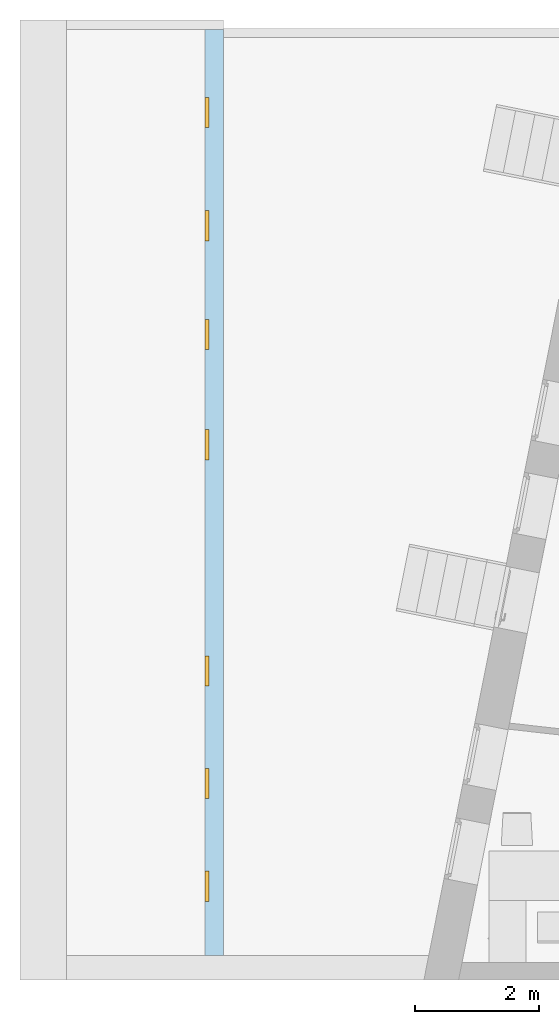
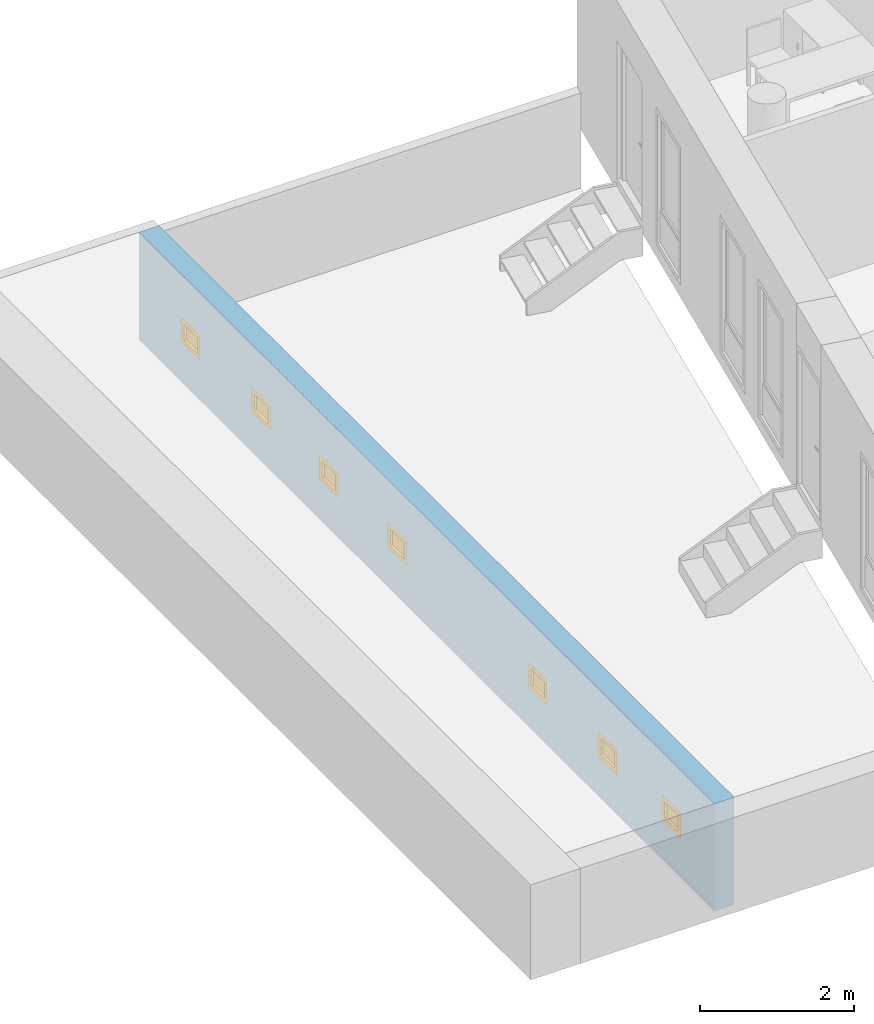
"""IFC4 building model written with IfcOpenShell, lengths in metres."""

from ifc_helpers import new_model, entity, si_unit, converted_unit, derived_unit, frame, frame_2d, origin, origin_with_axes, place, context, subcontext, project, spatial, polyline, rectangle, outline, extrude, closed_shell, open_shell, surface_model, source, transform, mapped, material, layer, layer_set, layer_usage, element, fill, save


model = new_model("IFC4")

# Units and contexts
model_context = context("Model", 3, precision=1e-05, world=origin())
body_context = subcontext(model_context, "Body", "Model", "MODEL_VIEW")
ifc_project = project(units=[si_unit("LENGTHUNIT", "METRE"), si_unit("AREAUNIT", "SQUARE_METRE"), si_unit("VOLUMEUNIT", "CUBIC_METRE"), si_unit("MASSUNIT", "GRAM", prefix="KILO"), converted_unit("PLANEANGLEUNIT", "DEGREE", entity("IfcPlaneAngleMeasure", 0.0174532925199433), si_unit("PLANEANGLEUNIT", "RADIAN"), dimensions=[0, 0, 0, 0, 0, 0, 0]), derived_unit("THERMALTRANSMITTANCEUNIT", [(si_unit("POWERUNIT", "WATT"), 1), (si_unit("THERMODYNAMICTEMPERATUREUNIT", "KELVIN"), -1), (si_unit("LENGTHUNIT", "METRE"), -2)]), derived_unit("VOLUMETRICFLOWRATEUNIT", [(si_unit("LENGTHUNIT", "METRE"), 3), (converted_unit("TIMEUNIT", "hour", entity("IfcTimeMeasure", 3600.0), si_unit("TIMEUNIT", "SECOND"), dimensions=[0, 0, 1, 0, 0, 0, 0]), -1), (si_unit("LENGTHUNIT", "METRE"), -1)])], contexts=[model_context])

# Building, storeys
building_placement = place(None, origin())
building = spatial("IfcBuilding", under=ifc_project, at=building_placement, Name="HABITATGE PLURIFAMILIAR", CompositionType="ELEMENT")
storey_1_placement = place(building_placement, frame((0.0, 0.0, 6.25)))
storey_1 = spatial("IfcBuildingStorey", under=building, at=storey_1_placement, Name="PLANTA PRIMERA", CompositionType="ELEMENT", Elevation=6.25)
storey_2_placement = place(storey_1_placement, frame((0.0, 0.0, 3.35)))
storey_2 = spatial("IfcBuildingStorey", under=storey_1, at=storey_2_placement, Name="NOU", CompositionType="PARTIAL")

# Wall, openings, windows
ifc_material = material()
ifc_layer = layer(ifc_material, 0.3)
ifc_layer_set = layer_set([ifc_layer])
ifc_layer_usage = layer_usage(ifc_layer_set, "AXIS2", "POSITIVE", 0.0)
wall_placement = place(storey_2_placement, frame((394.139778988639, 28.2138565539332, -4.58), z_axis=(0.0, 0.0, 1.0), x_axis=(0.0, -1.0, 0.0)))
wall = element("IfcWall", 1, at=wall_placement, inside=storey_2, material=ifc_layer_usage, Name="Envans P1", context=body_context, shape_type="SweptSolid", body=[
    extrude(rectangle(XDim=14.9732444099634, YDim=0.3, at=frame_2d((7.48662220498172, 0.15), x_axis=(1.0, 0.0))), origin_with_axes(), (0.0, 0.0, 1.0), 1.71),
])
opening_1_placement = place(wall_placement, frame((4.69138736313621, 0.0, 0.63), z_axis=(0.0, 1.0, 0.0), x_axis=(0.0, 0.0, 1.0)))
opening_1 = element("IfcOpeningElement", 2, at=opening_1_placement, cuts=wall, Name="Vano de Finestra P1", ObjectType="Opening", context=body_context, shape_type="SweptSolid", body=[
    extrude(outline(polyline([(0.4, 0.49), (0.4, 0.0), (0.0, 0.0), (0.0, 0.49), (0.4, 0.49)])), origin_with_axes(), (0.0, 0.0, 1.0), 0.3),
])
opening_2_placement = place(wall_placement, frame((2.93138736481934, 0.0, 0.63), z_axis=(0.0, 1.0, 0.0), x_axis=(0.0, 0.0, 1.0)))
opening_2 = element("IfcOpeningElement", 3, at=opening_2_placement, cuts=wall, Name="Vano de Finestra P1", ObjectType="Opening", context=body_context, shape_type="SweptSolid", body=[
    extrude(outline(polyline([(0.4, 0.49), (0.4, 0.0), (0.0, 0.0), (0.0, 0.49), (0.4, 0.49)])), origin_with_axes(), (0.0, 0.0, 1.0), 0.3),
])
opening_3_placement = place(wall_placement, frame((6.47138736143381, 0.0, 0.63), z_axis=(0.0, 1.0, 0.0), x_axis=(0.0, 0.0, 1.0)))
opening_3 = element("IfcOpeningElement", 4, at=opening_3_placement, cuts=wall, Name="Vano de Finestra P1", ObjectType="Opening", context=body_context, shape_type="SweptSolid", body=[
    extrude(outline(polyline([(0.4, 0.49), (0.4, 0.0), (0.0, 0.0), (0.0, 0.49), (0.4, 0.49)])), origin_with_axes(), (0.0, 0.0, 1.0), 0.3),
])
opening_4_placement = place(wall_placement, frame((1.10138736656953, 0.0, 0.63), z_axis=(0.0, 1.0, 0.0), x_axis=(0.0, 0.0, 1.0)))
opening_4 = element("IfcOpeningElement", 5, at=opening_4_placement, cuts=wall, Name="Vano de Finestra P1", ObjectType="Opening", context=body_context, shape_type="SweptSolid", body=[
    extrude(outline(polyline([(0.4, 0.49), (0.4, 0.0), (0.0, 0.0), (0.0, 0.49), (0.4, 0.49)])), origin_with_axes(), (0.0, 0.0, 1.0), 0.3),
])
opening_5_placement = place(wall_placement, frame((10.1313873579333, 0.0, 0.63), z_axis=(0.0, 1.0, 0.0), x_axis=(0.0, 0.0, 1.0)))
opening_5 = element("IfcOpeningElement", 6, at=opening_5_placement, cuts=wall, Name="Vano de Finestra P1", ObjectType="Opening", context=body_context, shape_type="SweptSolid", body=[
    extrude(outline(polyline([(0.4, 0.49), (0.4, 0.0), (0.0, 0.0), (0.0, 0.49), (0.4, 0.49)])), origin_with_axes(), (0.0, 0.0, 1.0), 0.3),
])
opening_6_placement = place(wall_placement, frame((11.9520491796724, 0.0, 0.63), z_axis=(0.0, 1.0, 0.0), x_axis=(0.0, 0.0, 1.0)))
opening_6 = element("IfcOpeningElement", 7, at=opening_6_placement, cuts=wall, Name="Vano de Finestra P1", ObjectType="Opening", context=body_context, shape_type="SweptSolid", body=[
    extrude(outline(polyline([(0.4, 0.49), (0.4, 0.0), (0.0, 0.0), (0.0, 0.49), (0.4, 0.49)])), origin_with_axes(), (0.0, 0.0, 1.0), 0.3),
])
opening_7_placement = place(wall_placement, frame((13.6120491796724, 0.0, 0.63), z_axis=(0.0, 1.0, 0.0), x_axis=(0.0, 0.0, 1.0)))
opening_7 = element("IfcOpeningElement", 8, at=opening_7_placement, cuts=wall, Name="Vano de Finestra P1", ObjectType="Opening", context=body_context, shape_type="SweptSolid", body=[
    extrude(outline(polyline([(0.4, 0.49), (0.4, 0.0), (0.0, 0.0), (0.0, 0.49), (0.4, 0.49)])), origin_with_axes(), (0.0, 0.0, 1.0), 0.3),
])
shared_shape_1 = source(origin_with_axes(), body_context, "Body", "SurfaceModel", [
    surface_model("IfcShellBasedSurfaceModel", [(0.0, 0.0, 0.4), (0.0699999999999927, 0.0, 0.4), (0.0699999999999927, 0.0, 0.0), (0.0, 0.0, 0.0), (0.0, 0.0700000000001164, 0.0), (0.0699999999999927, 0.0700000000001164, 0.0), (0.0699999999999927, 0.0700000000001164, 0.4), (0.0, 0.0700000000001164, 0.4)], [closed_shell([[[0, 1, 2, 3]], [[4, 5, 6, 7]], [[3, 4, 7, 0]], [[2, 5, 4, 3]], [[1, 6, 5, 2]], [[0, 7, 6, 1]]], orient=[[False], [False], [False], [False], [False], [False]])]),
    surface_model("IfcShellBasedSurfaceModel", [(0.419999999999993, 0.0, 0.4), (0.489999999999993, 0.0, 0.4), (0.489999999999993, 0.0, 0.0), (0.419999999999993, 0.0, 0.0), (0.419999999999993, 0.0700000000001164, 0.0), (0.489999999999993, 0.0700000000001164, 0.0), (0.489999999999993, 0.0700000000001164, 0.4), (0.419999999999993, 0.0700000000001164, 0.4)], [closed_shell([[[0, 1, 2, 3]], [[4, 5, 6, 7]], [[3, 4, 7, 0]], [[2, 5, 4, 3]], [[1, 6, 5, 2]], [[0, 7, 6, 1]]], orient=[[False], [False], [False], [False], [False], [False]])]),
    surface_model("IfcShellBasedSurfaceModel", [(0.0699999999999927, 0.0, 0.07), (0.419999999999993, 0.0, 0.07), (0.419999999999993, 0.0, 0.0), (0.0699999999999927, 0.0, 0.0), (0.0699999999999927, 0.0700000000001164, 0.0), (0.419999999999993, 0.0700000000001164, 0.0), (0.419999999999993, 0.0700000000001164, 0.07), (0.0699999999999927, 0.0700000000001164, 0.07)], [closed_shell([[[0, 1, 2, 3]], [[4, 5, 6, 7]], [[3, 4, 7, 0]], [[2, 5, 4, 3]], [[1, 6, 5, 2]], [[0, 7, 6, 1]]], orient=[[False], [False], [False], [False], [False], [False]])]),
    surface_model("IfcShellBasedSurfaceModel", [(0.0699999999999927, 0.0, 0.4), (0.419999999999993, 0.0, 0.4), (0.419999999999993, 0.0, 0.33), (0.0699999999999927, 0.0, 0.33), (0.0699999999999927, 0.0700000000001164, 0.33), (0.419999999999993, 0.0700000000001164, 0.33), (0.419999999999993, 0.0700000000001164, 0.4), (0.0699999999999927, 0.0700000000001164, 0.4)], [closed_shell([[[0, 1, 2, 3]], [[4, 5, 6, 7]], [[3, 4, 7, 0]], [[2, 5, 4, 3]], [[1, 6, 5, 2]], [[0, 7, 6, 1]]], orient=[[False], [False], [False], [False], [False], [False]])]),
    surface_model("IfcShellBasedSurfaceModel", [(0.0699999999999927, 0.0350000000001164, 0.07), (0.0699999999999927, 0.0350000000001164, 0.33), (0.419999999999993, 0.0350000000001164, 0.33), (0.419999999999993, 0.0350000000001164, 0.07)], [open_shell([[[0, 1, 2, 3]]], orient=[[False]])]),
])
window_1_placement = place(opening_1_placement, frame((0.0, 0.49, 0.07), z_axis=(1.0, 0.0, 0.0), x_axis=(0.0, -1.0, 0.0)))
window_1 = element("IfcWindow", 9, at=window_1_placement, inside=storey_2, Name="Ventana", OverallHeight=0.4, OverallWidth=0.49, PartitioningType="USERDEFINED", PredefinedType="WINDOW", context=body_context, shape_type="MappedRepresentation", body=[
    mapped(shared_shape_1, transform((0.0, 0.0, 0.0), x_axis=(1.0, 0.0, 0.0), y_axis=(0.0, 1.0, 0.0), z_axis=(0.0, 0.0, 1.0), scale=1.0)),
])
fill(opening_1, window_1)
shared_shape_2 = source(origin_with_axes(), body_context, "Body", "SurfaceModel", [
    surface_model("IfcShellBasedSurfaceModel", [(0.0, 0.0, 0.4), (0.0699999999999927, 0.0, 0.4), (0.0699999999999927, 0.0, 0.0), (0.0, 0.0, 0.0), (0.0, 0.0700000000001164, 0.0), (0.0699999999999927, 0.0700000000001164, 0.0), (0.0699999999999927, 0.0700000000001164, 0.4), (0.0, 0.0700000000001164, 0.4)], [closed_shell([[[0, 1, 2, 3]], [[4, 5, 6, 7]], [[3, 4, 7, 0]], [[2, 5, 4, 3]], [[1, 6, 5, 2]], [[0, 7, 6, 1]]], orient=[[False], [False], [False], [False], [False], [False]])]),
    surface_model("IfcShellBasedSurfaceModel", [(0.419999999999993, 0.0, 0.4), (0.489999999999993, 0.0, 0.4), (0.489999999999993, 0.0, 0.0), (0.419999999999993, 0.0, 0.0), (0.419999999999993, 0.0700000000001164, 0.0), (0.489999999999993, 0.0700000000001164, 0.0), (0.489999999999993, 0.0700000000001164, 0.4), (0.419999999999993, 0.0700000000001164, 0.4)], [closed_shell([[[0, 1, 2, 3]], [[4, 5, 6, 7]], [[3, 4, 7, 0]], [[2, 5, 4, 3]], [[1, 6, 5, 2]], [[0, 7, 6, 1]]], orient=[[False], [False], [False], [False], [False], [False]])]),
    surface_model("IfcShellBasedSurfaceModel", [(0.0699999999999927, 0.0, 0.07), (0.419999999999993, 0.0, 0.07), (0.419999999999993, 0.0, 0.0), (0.0699999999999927, 0.0, 0.0), (0.0699999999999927, 0.0700000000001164, 0.0), (0.419999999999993, 0.0700000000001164, 0.0), (0.419999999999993, 0.0700000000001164, 0.07), (0.0699999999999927, 0.0700000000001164, 0.07)], [closed_shell([[[0, 1, 2, 3]], [[4, 5, 6, 7]], [[3, 4, 7, 0]], [[2, 5, 4, 3]], [[1, 6, 5, 2]], [[0, 7, 6, 1]]], orient=[[False], [False], [False], [False], [False], [False]])]),
    surface_model("IfcShellBasedSurfaceModel", [(0.0699999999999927, 0.0, 0.4), (0.419999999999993, 0.0, 0.4), (0.419999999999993, 0.0, 0.33), (0.0699999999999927, 0.0, 0.33), (0.0699999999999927, 0.0700000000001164, 0.33), (0.419999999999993, 0.0700000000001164, 0.33), (0.419999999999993, 0.0700000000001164, 0.4), (0.0699999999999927, 0.0700000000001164, 0.4)], [closed_shell([[[0, 1, 2, 3]], [[4, 5, 6, 7]], [[3, 4, 7, 0]], [[2, 5, 4, 3]], [[1, 6, 5, 2]], [[0, 7, 6, 1]]], orient=[[False], [False], [False], [False], [False], [False]])]),
    surface_model("IfcShellBasedSurfaceModel", [(0.0699999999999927, 0.0350000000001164, 0.07), (0.0699999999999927, 0.0350000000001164, 0.33), (0.419999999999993, 0.0350000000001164, 0.33), (0.419999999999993, 0.0350000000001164, 0.07)], [open_shell([[[0, 1, 2, 3]]], orient=[[False]])]),
])
window_2_placement = place(opening_2_placement, frame((0.0, 0.49, 0.07), z_axis=(1.0, 0.0, 0.0), x_axis=(0.0, -1.0, 0.0)))
window_2 = element("IfcWindow", 10, at=window_2_placement, inside=storey_2, Name="Ventana", OverallHeight=0.4, OverallWidth=0.49, PartitioningType="USERDEFINED", PredefinedType="WINDOW", context=body_context, shape_type="MappedRepresentation", body=[
    mapped(shared_shape_2, transform((0.0, 0.0, 0.0), x_axis=(1.0, 0.0, 0.0), y_axis=(0.0, 1.0, 0.0), z_axis=(0.0, 0.0, 1.0), scale=1.0)),
])
fill(opening_2, window_2)
shared_shape_3 = source(origin_with_axes(), body_context, "Body", "SurfaceModel", [
    surface_model("IfcShellBasedSurfaceModel", [(0.0, 0.0, 0.4), (0.0699999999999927, 0.0, 0.4), (0.0699999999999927, 0.0, 0.0), (0.0, 0.0, 0.0), (0.0, 0.0700000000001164, 0.0), (0.0699999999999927, 0.0700000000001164, 0.0), (0.0699999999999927, 0.0700000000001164, 0.4), (0.0, 0.0700000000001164, 0.4)], [closed_shell([[[0, 1, 2, 3]], [[4, 5, 6, 7]], [[3, 4, 7, 0]], [[2, 5, 4, 3]], [[1, 6, 5, 2]], [[0, 7, 6, 1]]], orient=[[False], [False], [False], [False], [False], [False]])]),
    surface_model("IfcShellBasedSurfaceModel", [(0.419999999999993, 0.0, 0.4), (0.489999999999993, 0.0, 0.4), (0.489999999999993, 0.0, 0.0), (0.419999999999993, 0.0, 0.0), (0.419999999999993, 0.0700000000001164, 0.0), (0.489999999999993, 0.0700000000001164, 0.0), (0.489999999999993, 0.0700000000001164, 0.4), (0.419999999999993, 0.0700000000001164, 0.4)], [closed_shell([[[0, 1, 2, 3]], [[4, 5, 6, 7]], [[3, 4, 7, 0]], [[2, 5, 4, 3]], [[1, 6, 5, 2]], [[0, 7, 6, 1]]], orient=[[False], [False], [False], [False], [False], [False]])]),
    surface_model("IfcShellBasedSurfaceModel", [(0.0699999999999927, 0.0, 0.07), (0.419999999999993, 0.0, 0.07), (0.419999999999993, 0.0, 0.0), (0.0699999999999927, 0.0, 0.0), (0.0699999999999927, 0.0700000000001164, 0.0), (0.419999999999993, 0.0700000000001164, 0.0), (0.419999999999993, 0.0700000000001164, 0.07), (0.0699999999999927, 0.0700000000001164, 0.07)], [closed_shell([[[0, 1, 2, 3]], [[4, 5, 6, 7]], [[3, 4, 7, 0]], [[2, 5, 4, 3]], [[1, 6, 5, 2]], [[0, 7, 6, 1]]], orient=[[False], [False], [False], [False], [False], [False]])]),
    surface_model("IfcShellBasedSurfaceModel", [(0.0699999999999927, 0.0, 0.4), (0.419999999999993, 0.0, 0.4), (0.419999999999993, 0.0, 0.33), (0.0699999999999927, 0.0, 0.33), (0.0699999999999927, 0.0700000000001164, 0.33), (0.419999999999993, 0.0700000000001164, 0.33), (0.419999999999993, 0.0700000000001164, 0.4), (0.0699999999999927, 0.0700000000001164, 0.4)], [closed_shell([[[0, 1, 2, 3]], [[4, 5, 6, 7]], [[3, 4, 7, 0]], [[2, 5, 4, 3]], [[1, 6, 5, 2]], [[0, 7, 6, 1]]], orient=[[False], [False], [False], [False], [False], [False]])]),
    surface_model("IfcShellBasedSurfaceModel", [(0.0699999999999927, 0.0350000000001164, 0.07), (0.0699999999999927, 0.0350000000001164, 0.33), (0.419999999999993, 0.0350000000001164, 0.33), (0.419999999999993, 0.0350000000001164, 0.07)], [open_shell([[[0, 1, 2, 3]]], orient=[[False]])]),
])
window_3_placement = place(opening_3_placement, frame((0.0, 0.49, 0.07), z_axis=(1.0, 0.0, 0.0), x_axis=(0.0, -1.0, 0.0)))
window_3 = element("IfcWindow", 11, at=window_3_placement, inside=storey_2, Name="Ventana", OverallHeight=0.4, OverallWidth=0.49, PartitioningType="USERDEFINED", PredefinedType="WINDOW", context=body_context, shape_type="MappedRepresentation", body=[
    mapped(shared_shape_3, transform((0.0, 0.0, 0.0), x_axis=(1.0, 0.0, 0.0), y_axis=(0.0, 1.0, 0.0), z_axis=(0.0, 0.0, 1.0), scale=1.0)),
])
fill(opening_3, window_3)
shared_shape_4 = source(origin_with_axes(), body_context, "Body", "SurfaceModel", [
    surface_model("IfcShellBasedSurfaceModel", [(0.0, 0.0, 0.4), (0.0699999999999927, 0.0, 0.4), (0.0699999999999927, 0.0, 0.0), (0.0, 0.0, 0.0), (0.0, 0.0700000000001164, 0.0), (0.0699999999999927, 0.0700000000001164, 0.0), (0.0699999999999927, 0.0700000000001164, 0.4), (0.0, 0.0700000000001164, 0.4)], [closed_shell([[[0, 1, 2, 3]], [[4, 5, 6, 7]], [[3, 4, 7, 0]], [[2, 5, 4, 3]], [[1, 6, 5, 2]], [[0, 7, 6, 1]]], orient=[[False], [False], [False], [False], [False], [False]])]),
    surface_model("IfcShellBasedSurfaceModel", [(0.419999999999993, 0.0, 0.4), (0.489999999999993, 0.0, 0.4), (0.489999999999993, 0.0, 0.0), (0.419999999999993, 0.0, 0.0), (0.419999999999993, 0.0700000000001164, 0.0), (0.489999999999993, 0.0700000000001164, 0.0), (0.489999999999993, 0.0700000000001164, 0.4), (0.419999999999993, 0.0700000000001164, 0.4)], [closed_shell([[[0, 1, 2, 3]], [[4, 5, 6, 7]], [[3, 4, 7, 0]], [[2, 5, 4, 3]], [[1, 6, 5, 2]], [[0, 7, 6, 1]]], orient=[[False], [False], [False], [False], [False], [False]])]),
    surface_model("IfcShellBasedSurfaceModel", [(0.0699999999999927, 0.0, 0.07), (0.419999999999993, 0.0, 0.07), (0.419999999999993, 0.0, 0.0), (0.0699999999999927, 0.0, 0.0), (0.0699999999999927, 0.0700000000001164, 0.0), (0.419999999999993, 0.0700000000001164, 0.0), (0.419999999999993, 0.0700000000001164, 0.07), (0.0699999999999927, 0.0700000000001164, 0.07)], [closed_shell([[[0, 1, 2, 3]], [[4, 5, 6, 7]], [[3, 4, 7, 0]], [[2, 5, 4, 3]], [[1, 6, 5, 2]], [[0, 7, 6, 1]]], orient=[[False], [False], [False], [False], [False], [False]])]),
    surface_model("IfcShellBasedSurfaceModel", [(0.0699999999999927, 0.0, 0.4), (0.419999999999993, 0.0, 0.4), (0.419999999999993, 0.0, 0.33), (0.0699999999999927, 0.0, 0.33), (0.0699999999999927, 0.0700000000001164, 0.33), (0.419999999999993, 0.0700000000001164, 0.33), (0.419999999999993, 0.0700000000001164, 0.4), (0.0699999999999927, 0.0700000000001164, 0.4)], [closed_shell([[[0, 1, 2, 3]], [[4, 5, 6, 7]], [[3, 4, 7, 0]], [[2, 5, 4, 3]], [[1, 6, 5, 2]], [[0, 7, 6, 1]]], orient=[[False], [False], [False], [False], [False], [False]])]),
    surface_model("IfcShellBasedSurfaceModel", [(0.0699999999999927, 0.0350000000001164, 0.07), (0.0699999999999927, 0.0350000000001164, 0.33), (0.419999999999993, 0.0350000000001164, 0.33), (0.419999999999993, 0.0350000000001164, 0.07)], [open_shell([[[0, 1, 2, 3]]], orient=[[False]])]),
])
window_4_placement = place(opening_4_placement, frame((0.0, 0.49, 0.07), z_axis=(1.0, 0.0, 0.0), x_axis=(0.0, -1.0, 0.0)))
window_4 = element("IfcWindow", 12, at=window_4_placement, inside=storey_2, Name="Ventana", OverallHeight=0.4, OverallWidth=0.49, PartitioningType="USERDEFINED", PredefinedType="WINDOW", context=body_context, shape_type="MappedRepresentation", body=[
    mapped(shared_shape_4, transform((0.0, 0.0, 0.0), x_axis=(1.0, 0.0, 0.0), y_axis=(0.0, 1.0, 0.0), z_axis=(0.0, 0.0, 1.0), scale=1.0)),
])
fill(opening_4, window_4)
shared_shape_5 = source(origin_with_axes(), body_context, "Body", "SurfaceModel", [
    surface_model("IfcShellBasedSurfaceModel", [(0.0, 0.0, 0.4), (0.0699999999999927, 0.0, 0.4), (0.0699999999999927, 0.0, 0.0), (0.0, 0.0, 0.0), (0.0, 0.0700000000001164, 0.0), (0.0699999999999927, 0.0700000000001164, 0.0), (0.0699999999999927, 0.0700000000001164, 0.4), (0.0, 0.0700000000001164, 0.4)], [closed_shell([[[0, 1, 2, 3]], [[4, 5, 6, 7]], [[3, 4, 7, 0]], [[2, 5, 4, 3]], [[1, 6, 5, 2]], [[0, 7, 6, 1]]], orient=[[False], [False], [False], [False], [False], [False]])]),
    surface_model("IfcShellBasedSurfaceModel", [(0.419999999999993, 0.0, 0.4), (0.489999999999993, 0.0, 0.4), (0.489999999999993, 0.0, 0.0), (0.419999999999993, 0.0, 0.0), (0.419999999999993, 0.0700000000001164, 0.0), (0.489999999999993, 0.0700000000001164, 0.0), (0.489999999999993, 0.0700000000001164, 0.4), (0.419999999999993, 0.0700000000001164, 0.4)], [closed_shell([[[0, 1, 2, 3]], [[4, 5, 6, 7]], [[3, 4, 7, 0]], [[2, 5, 4, 3]], [[1, 6, 5, 2]], [[0, 7, 6, 1]]], orient=[[False], [False], [False], [False], [False], [False]])]),
    surface_model("IfcShellBasedSurfaceModel", [(0.0699999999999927, 0.0, 0.07), (0.419999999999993, 0.0, 0.07), (0.419999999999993, 0.0, 0.0), (0.0699999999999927, 0.0, 0.0), (0.0699999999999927, 0.0700000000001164, 0.0), (0.419999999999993, 0.0700000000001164, 0.0), (0.419999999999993, 0.0700000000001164, 0.07), (0.0699999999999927, 0.0700000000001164, 0.07)], [closed_shell([[[0, 1, 2, 3]], [[4, 5, 6, 7]], [[3, 4, 7, 0]], [[2, 5, 4, 3]], [[1, 6, 5, 2]], [[0, 7, 6, 1]]], orient=[[False], [False], [False], [False], [False], [False]])]),
    surface_model("IfcShellBasedSurfaceModel", [(0.0699999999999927, 0.0, 0.4), (0.419999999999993, 0.0, 0.4), (0.419999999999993, 0.0, 0.33), (0.0699999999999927, 0.0, 0.33), (0.0699999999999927, 0.0700000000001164, 0.33), (0.419999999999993, 0.0700000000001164, 0.33), (0.419999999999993, 0.0700000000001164, 0.4), (0.0699999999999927, 0.0700000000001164, 0.4)], [closed_shell([[[0, 1, 2, 3]], [[4, 5, 6, 7]], [[3, 4, 7, 0]], [[2, 5, 4, 3]], [[1, 6, 5, 2]], [[0, 7, 6, 1]]], orient=[[False], [False], [False], [False], [False], [False]])]),
    surface_model("IfcShellBasedSurfaceModel", [(0.0699999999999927, 0.0350000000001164, 0.07), (0.0699999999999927, 0.0350000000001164, 0.33), (0.419999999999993, 0.0350000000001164, 0.33), (0.419999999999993, 0.0350000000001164, 0.07)], [open_shell([[[0, 1, 2, 3]]], orient=[[False]])]),
])
window_5_placement = place(opening_5_placement, frame((0.0, 0.49, 0.07), z_axis=(1.0, 0.0, 0.0), x_axis=(0.0, -1.0, 0.0)))
window_5 = element("IfcWindow", 13, at=window_5_placement, inside=storey_2, Name="Ventana", OverallHeight=0.4, OverallWidth=0.49, PartitioningType="USERDEFINED", PredefinedType="WINDOW", context=body_context, shape_type="MappedRepresentation", body=[
    mapped(shared_shape_5, transform((0.0, 0.0, 0.0), x_axis=(1.0, 0.0, 0.0), y_axis=(0.0, 1.0, 0.0), z_axis=(0.0, 0.0, 1.0), scale=1.0)),
])
fill(opening_5, window_5)
shared_shape_6 = source(origin_with_axes(), body_context, "Body", "SurfaceModel", [
    surface_model("IfcShellBasedSurfaceModel", [(0.0, 0.0, 0.4), (0.0699999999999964, 0.0, 0.4), (0.0699999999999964, 0.0, 0.0), (0.0, 0.0, 0.0), (0.0, 0.0700000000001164, 0.0), (0.0699999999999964, 0.0700000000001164, 0.0), (0.0699999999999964, 0.0700000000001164, 0.4), (0.0, 0.0700000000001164, 0.4)], [closed_shell([[[0, 1, 2, 3]], [[4, 5, 6, 7]], [[3, 4, 7, 0]], [[2, 5, 4, 3]], [[1, 6, 5, 2]], [[0, 7, 6, 1]]], orient=[[False], [False], [False], [False], [False], [False]])]),
    surface_model("IfcShellBasedSurfaceModel", [(0.419999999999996, 0.0, 0.4), (0.489999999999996, 0.0, 0.4), (0.489999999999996, 0.0, 0.0), (0.419999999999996, 0.0, 0.0), (0.419999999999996, 0.0700000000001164, 0.0), (0.489999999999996, 0.0700000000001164, 0.0), (0.489999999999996, 0.0700000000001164, 0.4), (0.419999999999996, 0.0700000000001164, 0.4)], [closed_shell([[[0, 1, 2, 3]], [[4, 5, 6, 7]], [[3, 4, 7, 0]], [[2, 5, 4, 3]], [[1, 6, 5, 2]], [[0, 7, 6, 1]]], orient=[[False], [False], [False], [False], [False], [False]])]),
    surface_model("IfcShellBasedSurfaceModel", [(0.0699999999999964, 0.0, 0.07), (0.419999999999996, 0.0, 0.07), (0.419999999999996, 0.0, 0.0), (0.0699999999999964, 0.0, 0.0), (0.0699999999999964, 0.0700000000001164, 0.0), (0.419999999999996, 0.0700000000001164, 0.0), (0.419999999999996, 0.0700000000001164, 0.07), (0.0699999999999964, 0.0700000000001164, 0.07)], [closed_shell([[[0, 1, 2, 3]], [[4, 5, 6, 7]], [[3, 4, 7, 0]], [[2, 5, 4, 3]], [[1, 6, 5, 2]], [[0, 7, 6, 1]]], orient=[[False], [False], [False], [False], [False], [False]])]),
    surface_model("IfcShellBasedSurfaceModel", [(0.0699999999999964, 0.0, 0.4), (0.419999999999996, 0.0, 0.4), (0.419999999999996, 0.0, 0.33), (0.0699999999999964, 0.0, 0.33), (0.0699999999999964, 0.0700000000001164, 0.33), (0.419999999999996, 0.0700000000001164, 0.33), (0.419999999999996, 0.0700000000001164, 0.4), (0.0699999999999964, 0.0700000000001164, 0.4)], [closed_shell([[[0, 1, 2, 3]], [[4, 5, 6, 7]], [[3, 4, 7, 0]], [[2, 5, 4, 3]], [[1, 6, 5, 2]], [[0, 7, 6, 1]]], orient=[[False], [False], [False], [False], [False], [False]])]),
    surface_model("IfcShellBasedSurfaceModel", [(0.0699999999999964, 0.0350000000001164, 0.07), (0.0699999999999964, 0.0350000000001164, 0.33), (0.419999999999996, 0.0350000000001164, 0.33), (0.419999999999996, 0.0350000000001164, 0.07)], [open_shell([[[0, 1, 2, 3]]], orient=[[False]])]),
])
window_6_placement = place(opening_6_placement, frame((0.0, 0.49, 0.07), z_axis=(1.0, 0.0, 0.0), x_axis=(0.0, -1.0, 0.0)))
window_6 = element("IfcWindow", 14, at=window_6_placement, inside=storey_2, Name="Ventana", OverallHeight=0.4, OverallWidth=0.49, PartitioningType="USERDEFINED", PredefinedType="WINDOW", context=body_context, shape_type="MappedRepresentation", body=[
    mapped(shared_shape_6, transform((0.0, 0.0, 0.0), x_axis=(1.0, 0.0, 0.0), y_axis=(0.0, 1.0, 0.0), z_axis=(0.0, 0.0, 1.0), scale=1.0)),
])
fill(opening_6, window_6)
shared_shape_7 = source(origin_with_axes(), body_context, "Body", "SurfaceModel", [
    surface_model("IfcShellBasedSurfaceModel", [(0.0, 0.0, 0.4), (0.0699999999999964, 0.0, 0.4), (0.0699999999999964, 0.0, 0.0), (0.0, 0.0, 0.0), (0.0, 0.0700000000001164, 0.0), (0.0699999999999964, 0.0700000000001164, 0.0), (0.0699999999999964, 0.0700000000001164, 0.4), (0.0, 0.0700000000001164, 0.4)], [closed_shell([[[0, 1, 2, 3]], [[4, 5, 6, 7]], [[3, 4, 7, 0]], [[2, 5, 4, 3]], [[1, 6, 5, 2]], [[0, 7, 6, 1]]], orient=[[False], [False], [False], [False], [False], [False]])]),
    surface_model("IfcShellBasedSurfaceModel", [(0.419999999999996, 0.0, 0.4), (0.489999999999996, 0.0, 0.4), (0.489999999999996, 0.0, 0.0), (0.419999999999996, 0.0, 0.0), (0.419999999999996, 0.0700000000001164, 0.0), (0.489999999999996, 0.0700000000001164, 0.0), (0.489999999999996, 0.0700000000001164, 0.4), (0.419999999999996, 0.0700000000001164, 0.4)], [closed_shell([[[0, 1, 2, 3]], [[4, 5, 6, 7]], [[3, 4, 7, 0]], [[2, 5, 4, 3]], [[1, 6, 5, 2]], [[0, 7, 6, 1]]], orient=[[False], [False], [False], [False], [False], [False]])]),
    surface_model("IfcShellBasedSurfaceModel", [(0.0699999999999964, 0.0, 0.07), (0.419999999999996, 0.0, 0.07), (0.419999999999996, 0.0, 0.0), (0.0699999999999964, 0.0, 0.0), (0.0699999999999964, 0.0700000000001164, 0.0), (0.419999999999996, 0.0700000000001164, 0.0), (0.419999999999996, 0.0700000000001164, 0.07), (0.0699999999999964, 0.0700000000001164, 0.07)], [closed_shell([[[0, 1, 2, 3]], [[4, 5, 6, 7]], [[3, 4, 7, 0]], [[2, 5, 4, 3]], [[1, 6, 5, 2]], [[0, 7, 6, 1]]], orient=[[False], [False], [False], [False], [False], [False]])]),
    surface_model("IfcShellBasedSurfaceModel", [(0.0699999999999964, 0.0, 0.4), (0.419999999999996, 0.0, 0.4), (0.419999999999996, 0.0, 0.33), (0.0699999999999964, 0.0, 0.33), (0.0699999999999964, 0.0700000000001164, 0.33), (0.419999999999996, 0.0700000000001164, 0.33), (0.419999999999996, 0.0700000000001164, 0.4), (0.0699999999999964, 0.0700000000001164, 0.4)], [closed_shell([[[0, 1, 2, 3]], [[4, 5, 6, 7]], [[3, 4, 7, 0]], [[2, 5, 4, 3]], [[1, 6, 5, 2]], [[0, 7, 6, 1]]], orient=[[False], [False], [False], [False], [False], [False]])]),
    surface_model("IfcShellBasedSurfaceModel", [(0.0699999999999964, 0.0350000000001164, 0.07), (0.0699999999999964, 0.0350000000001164, 0.33), (0.419999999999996, 0.0350000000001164, 0.33), (0.419999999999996, 0.0350000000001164, 0.07)], [open_shell([[[0, 1, 2, 3]]], orient=[[False]])]),
])
window_7_placement = place(opening_7_placement, frame((0.0, 0.49, 0.07), z_axis=(1.0, 0.0, 0.0), x_axis=(0.0, -1.0, 0.0)))
window_7 = element("IfcWindow", 15, at=window_7_placement, inside=storey_2, Name="Ventana", OverallHeight=0.4, OverallWidth=0.49, PartitioningType="USERDEFINED", PredefinedType="WINDOW", context=body_context, shape_type="MappedRepresentation", body=[
    mapped(shared_shape_7, transform((0.0, 0.0, 0.0), x_axis=(1.0, 0.0, 0.0), y_axis=(0.0, 1.0, 0.0), z_axis=(0.0, 0.0, 1.0), scale=1.0)),
])
fill(opening_7, window_7)

save(model, "model.ifc")
